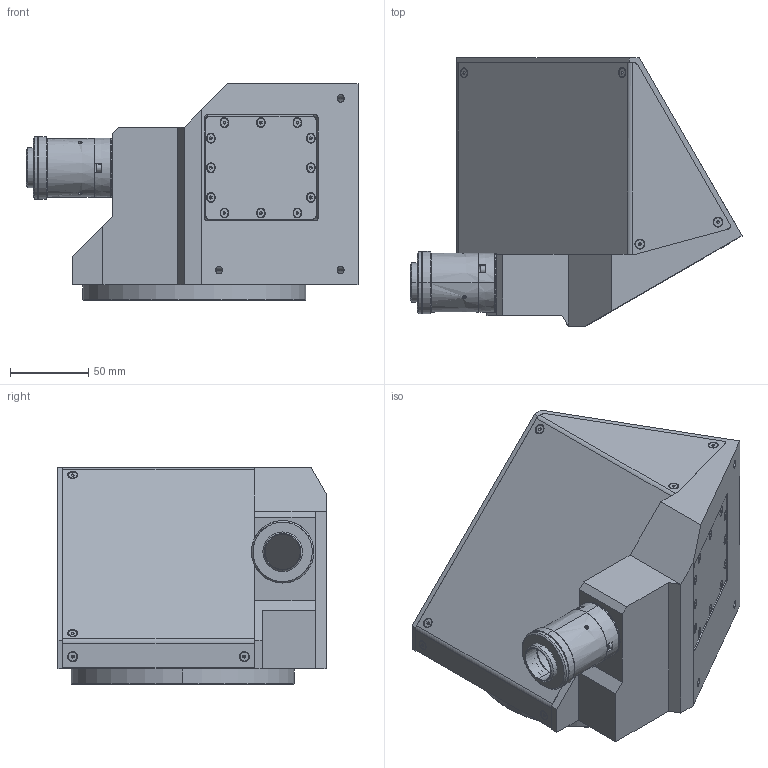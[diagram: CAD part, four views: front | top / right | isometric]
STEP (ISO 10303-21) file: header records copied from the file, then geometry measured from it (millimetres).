
FILE_DESCRIPTION(('LS-TCL-0384'),'2;1');
FILE_NAME('LS-TCL-0384.stp','2026-10-15T21:56:23',('LumaSpec Vision'),('LumaSpec Vision'),'LumaSpec Vision','LumaSpec Vision','');
FILE_SCHEMA(('AUTOMOTIVE_DESIGN { 1 0 10303 214 1 1 1 1 }'));
Length unit declared in the file: millimetre
Products named in the file (507): LumaSpec Vision
Assembly tree (506 placements, depth 2):
  LumaSpec Vision
    LumaSpec Vision
    LumaSpec Vision
    LumaSpec Vision
    LumaSpec Vision
    LumaSpec Vision
    LumaSpec Vision
    LumaSpec Vision
    LumaSpec Vision
    LumaSpec Vision
    LumaSpec Vision
    LumaSpec Vision
    LumaSpec Vision
    LumaSpec Vision
    LumaSpec Vision
    LumaSpec Vision
    LumaSpec Vision
    LumaSpec Vision
    LumaSpec Vision
    LumaSpec Vision
    LumaSpec Vision
    LumaSpec Vision
    LumaSpec Vision
    LumaSpec Vision
    LumaSpec Vision
    LumaSpec Vision
    LumaSpec Vision
    LumaSpec Vision
    LumaSpec Vision
    LumaSpec Vision
    LumaSpec Vision
    LumaSpec Vision
    LumaSpec Vision
    LumaSpec Vision
    LumaSpec Vision
    LumaSpec Vision
    LumaSpec Vision
    LumaSpec Vision
    LumaSpec Vision
    LumaSpec Vision
    LumaSpec Vision
    LumaSpec Vision
    LumaSpec Vision
    LumaSpec Vision
    LumaSpec Vision
    LumaSpec Vision
    LumaSpec Vision
    LumaSpec Vision
    LumaSpec Vision
    LumaSpec Vision
    LumaSpec Vision
    LumaSpec Vision
    LumaSpec Vision
    LumaSpec Vision
    LumaSpec Vision
    LumaSpec Vision
    LumaSpec Vision
    LumaSpec Vision
    LumaSpec Vision
    LumaSpec Vision
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Bounding box: 212.77 x 171.92 x 139 mm (x, y, z)
Surface area: 147704.9 mm2 (no closed solid volume)
Topology: 0 solids, 506 shells, 506 faces, 7006 edges, 6939 vertices
Faces by surface type: revolution 285, bspline 221
Entity records: 118443 total; most frequent: CARTESIAN_POINT 45427, B_SPLINE_CURVE_WITH_KNOTS 11974, ORIENTED_EDGE 6939, EDGE_CURVE 6939, VERTEX_POINT 6939, SURFACE_CURVE 6939, PCURVE 6939, DEFINITIONAL_REPRESENTATION 6939
